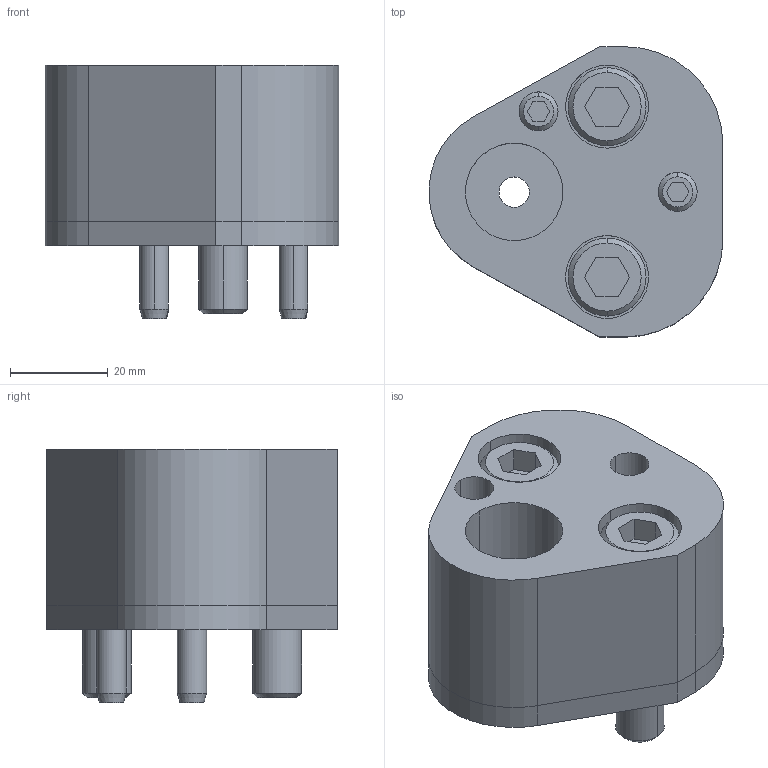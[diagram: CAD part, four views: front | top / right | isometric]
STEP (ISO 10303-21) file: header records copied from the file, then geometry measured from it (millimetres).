
FILE_DESCRIPTION(/* description */ (''),/* implementation_level */ '2;1');
FILE_NAME(/* name */ '3d_crn-ap20_03622_r00.stp',/* time_stamp */ '2011-01-10T14:16:24+09:00',/* author */ ('MISUMI'),/* organization */ (''),/* preprocessor_version */ 'ST-DEVELOPER v11',/* originating_system */ 'UGS - NX 5.0',/* authorisation */ '');
FILE_SCHEMA (('CONFIG_CONTROL_DESIGN'));
Length unit declared in the file: millimetre
Products named in the file (1): 3d_crn-ap20_03622_r00
Bounding box: 60.24 x 59.5 x 52 mm (x, y, z)
Volume: 87753.9 mm3; surface area: 29419.3 mm2
Topology: 8 solids, 8 shells, 155 faces, 348 edges, 224 vertices
Faces by surface type: plane 67, cylinder 62, cone 26
Entity records: 4494 total; most frequent: DIRECTION 804, CARTESIAN_POINT 782, ORIENTED_EDGE 696, EDGE_CURVE 348, AXIS2_PLACEMENT_3D 306, VERTEX_POINT 224, LINE 192, VECTOR 192
